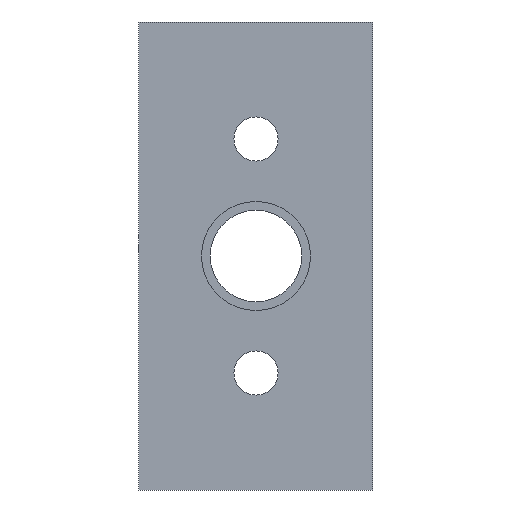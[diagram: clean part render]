
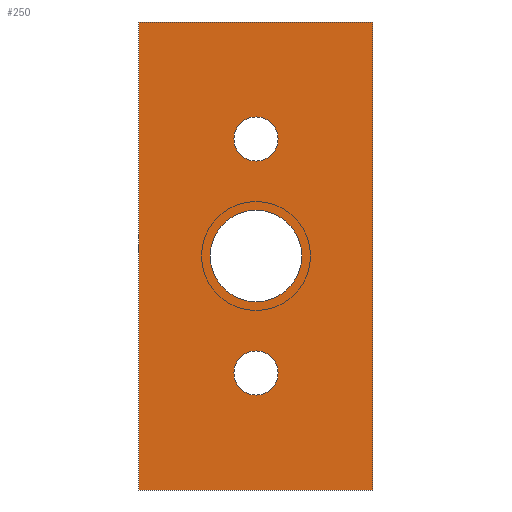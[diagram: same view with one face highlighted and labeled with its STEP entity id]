
A CAD part, front view. The second image highlights one B-rep face of the part: STEP entity #250.
In plain terms, the highlighted planar face has unit normal (0, -1, 0).
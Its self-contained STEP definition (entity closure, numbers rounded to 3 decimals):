
#1=DIRECTION('',(0.,0.,1.));
#2=VECTOR('',#1,90.);
#3=CARTESIAN_POINT('',(-22.5,0.,-45.));
#4=LINE('',#3,#2);
#5=DIRECTION('',(1.,0.,0.));
#6=VECTOR('',#5,45.);
#7=CARTESIAN_POINT('',(-22.5,0.,45.));
#8=LINE('',#7,#6);
#9=DIRECTION('',(0.,0.,-1.));
#10=VECTOR('',#9,90.);
#11=CARTESIAN_POINT('',(22.5,0.,45.));
#12=LINE('',#11,#10);
#13=DIRECTION('',(-1.,0.,0.));
#14=VECTOR('',#13,45.);
#15=CARTESIAN_POINT('',(22.5,0.,-45.));
#16=LINE('',#15,#14);
#17=CARTESIAN_POINT('',(0.,0.,-22.5));
#18=DIRECTION('',(0.,-1.,0.));
#19=DIRECTION('',(1.,0.,0.));
#20=AXIS2_PLACEMENT_3D('',#17,#18,#19);
#22=CARTESIAN_POINT('',(0.,0.,-22.5));
#23=DIRECTION('',(0.,-1.,0.));
#24=DIRECTION('',(-1.,0.,0.));
#25=AXIS2_PLACEMENT_3D('',#22,#23,#24);
#27=CARTESIAN_POINT('',(0.,0.,22.5));
#28=DIRECTION('',(0.,-1.,0.));
#29=DIRECTION('',(1.,0.,0.));
#30=AXIS2_PLACEMENT_3D('',#27,#28,#29);
#32=CARTESIAN_POINT('',(0.,0.,22.5));
#33=DIRECTION('',(0.,-1.,0.));
#34=DIRECTION('',(-1.,0.,0.));
#35=AXIS2_PLACEMENT_3D('',#32,#33,#34);
#37=CARTESIAN_POINT('',(0.,0.,0.));
#38=DIRECTION('',(0.,-1.,0.));
#39=DIRECTION('',(1.,0.,0.));
#40=AXIS2_PLACEMENT_3D('',#37,#38,#39);
#42=CARTESIAN_POINT('',(0.,0.,0.));
#43=DIRECTION('',(0.,-1.,0.));
#44=DIRECTION('',(-1.,0.,0.));
#45=AXIS2_PLACEMENT_3D('',#42,#43,#44);
#169=CARTESIAN_POINT('',(-22.5,0.,-45.));
#170=CARTESIAN_POINT('',(-22.5,0.,45.));
#171=VERTEX_POINT('',#169);
#172=VERTEX_POINT('',#170);
#173=CARTESIAN_POINT('',(22.5,0.,45.));
#174=VERTEX_POINT('',#173);
#175=CARTESIAN_POINT('',(22.5,0.,-45.));
#176=VERTEX_POINT('',#175);
#185=CARTESIAN_POINT('',(4.25,0.,-22.5));
#186=CARTESIAN_POINT('',(-4.25,0.,-22.5));
#187=VERTEX_POINT('',#185);
#188=VERTEX_POINT('',#186);
#189=CARTESIAN_POINT('',(4.25,0.,22.5));
#190=CARTESIAN_POINT('',(-4.25,0.,22.5));
#191=VERTEX_POINT('',#189);
#192=VERTEX_POINT('',#190);
#209=CARTESIAN_POINT('',(8.796,0.,0.));
#210=CARTESIAN_POINT('',(-8.796,0.,0.));
#211=VERTEX_POINT('',#209);
#212=VERTEX_POINT('',#210);
#217=CARTESIAN_POINT('',(0.,0.,0.));
#218=DIRECTION('',(0.,1.,0.));
#219=DIRECTION('',(1.,0.,0.));
#220=AXIS2_PLACEMENT_3D('',#217,#218,#219);
#221=PLANE('',#220);
#223=ORIENTED_EDGE('',*,*,#222,.T.);
#225=ORIENTED_EDGE('',*,*,#224,.T.);
#227=ORIENTED_EDGE('',*,*,#226,.T.);
#229=ORIENTED_EDGE('',*,*,#228,.T.);
#230=EDGE_LOOP('',(#223,#225,#227,#229));
#231=FACE_OUTER_BOUND('',#230,.F.);
#233=ORIENTED_EDGE('',*,*,#232,.T.);
#235=ORIENTED_EDGE('',*,*,#234,.T.);
#236=EDGE_LOOP('',(#233,#235));
#237=FACE_BOUND('',#236,.F.);
#239=ORIENTED_EDGE('',*,*,#238,.T.);
#241=ORIENTED_EDGE('',*,*,#240,.T.);
#242=EDGE_LOOP('',(#239,#241));
#243=FACE_BOUND('',#242,.F.);
#245=ORIENTED_EDGE('',*,*,#244,.T.);
#247=ORIENTED_EDGE('',*,*,#246,.T.);
#248=EDGE_LOOP('',(#245,#247));
#249=FACE_BOUND('',#248,.F.);
#250=ADVANCED_FACE('',(#231,#237,#243,#249),#221,.F.);
#21=CIRCLE('',#20,4.25);
#26=CIRCLE('',#25,4.25);
#31=CIRCLE('',#30,4.25);
#36=CIRCLE('',#35,4.25);
#41=CIRCLE('',#40,8.796);
#46=CIRCLE('',#45,8.796);
#222=EDGE_CURVE('',#171,#172,#4,.T.);
#224=EDGE_CURVE('',#172,#174,#8,.T.);
#226=EDGE_CURVE('',#174,#176,#12,.T.);
#228=EDGE_CURVE('',#176,#171,#16,.T.);
#232=EDGE_CURVE('',#187,#188,#21,.T.);
#234=EDGE_CURVE('',#188,#187,#26,.T.);
#238=EDGE_CURVE('',#191,#192,#31,.T.);
#240=EDGE_CURVE('',#192,#191,#36,.T.);
#244=EDGE_CURVE('',#211,#212,#41,.T.);
#246=EDGE_CURVE('',#212,#211,#46,.T.);
